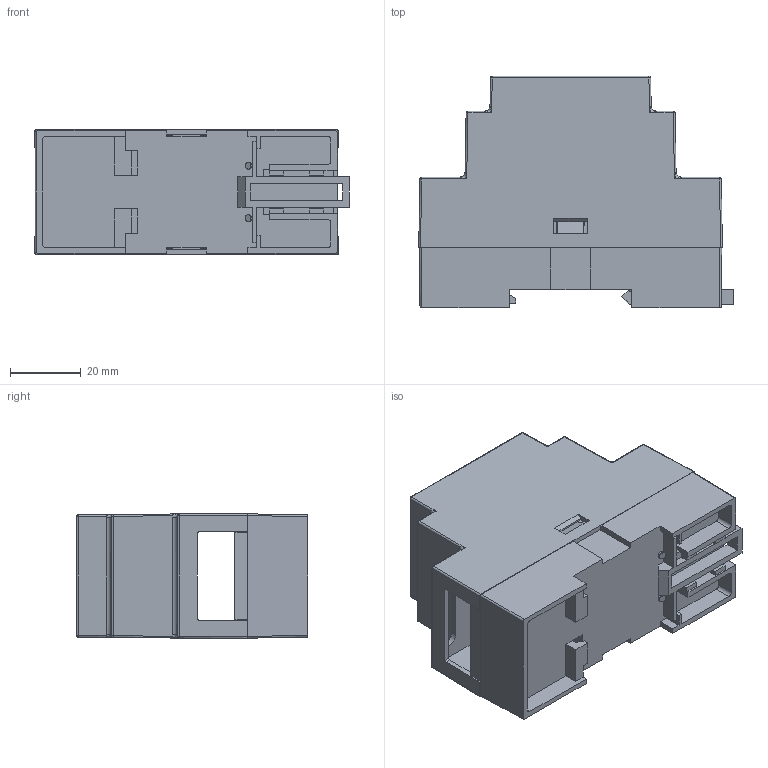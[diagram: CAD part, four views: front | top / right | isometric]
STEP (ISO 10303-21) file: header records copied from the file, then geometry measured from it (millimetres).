
FILE_DESCRIPTION (( 'STEP AP203' ), '1' );
FILE_NAME ('PT102-C.STEP', '2021-01-26T09:27:24', ( '' ), ( '' ), 'SwSTEP 2.0', 'SolidWorks 2020', '' );
FILE_SCHEMA (( 'CONFIG_CONTROL_DESIGN' ));
Length unit declared in the file: millimetre
Products named in the file (3): PT102-C
Assembly tree (2 placements, depth 2):
  PT102-C
    PT102-C
    PT102-C
Bounding box: 89.08 x 65.5 x 35.5 mm (x, y, z)
Volume: 52465 mm3; surface area: 39700.4 mm2
Topology: 3 solids, 3 shells, 488 faces, 1377 edges, 882 vertices
Faces by surface type: plane 366, cylinder 86, bspline 24, sphere 12
Entity records: 27946 total; most frequent: CARTESIAN_POINT 15430, ORIENTED_EDGE 2714, DIRECTION 2267, EDGE_CURVE 1357, LINE 1125, VECTOR 1125, VERTEX_POINT 882, AXIS2_PLACEMENT_3D 571
